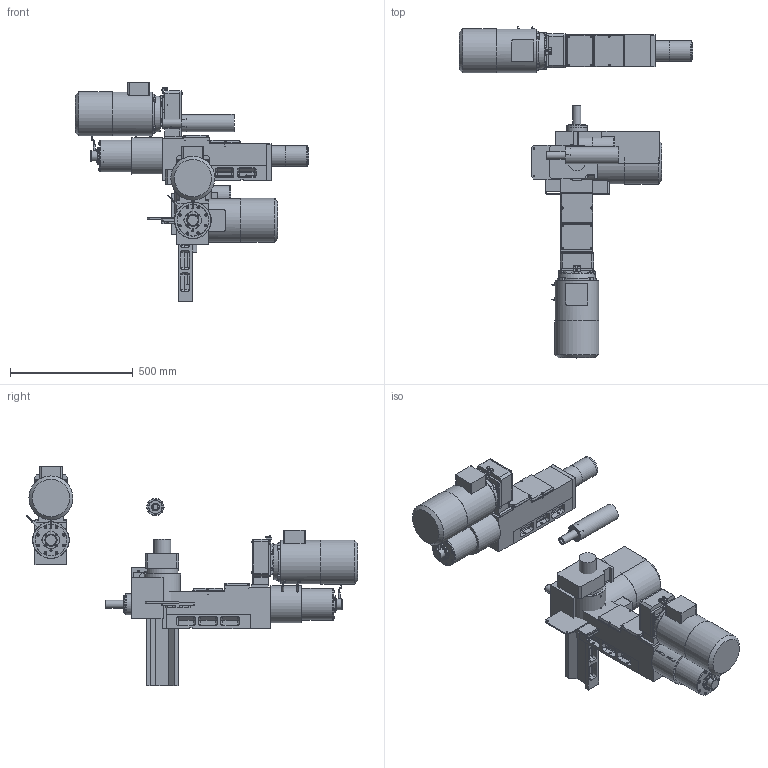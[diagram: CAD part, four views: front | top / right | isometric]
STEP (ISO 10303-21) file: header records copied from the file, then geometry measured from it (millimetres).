
FILE_DESCRIPTION( ( 'STEP AP203' ), '1' );
FILE_NAME( 'C:/Documents and Settings/Saverio/Desktop/disegni ironcad/unità serie 2/MC216A (ex MC220A)/MC 216 A_A05_P.stp', '2014-03-25T11:09:35', ( ' ' ), ( ' ' ), 'XStep 1.0', ' ', ' ' );
FILE_SCHEMA( ( 'CONFIG_CONTROL_DESIGN' ) );
Length unit declared in the file: metre
Products named in the file (54): Assem1; Assem2; Assem3; 1; 2; 3; 4; 5; 6; 7; 8; 9; 10; 11; 12; 13; 14; 15; 16; 17; 18; 19; 20; 21; 22; 23; 24; 25; 26; 27; 28; 29; 30; 31; 32; 33; 34; 35; 36; 37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
Bounding box: 950 x 1350.52 x 894.21 mm (x, y, z)
Volume: 61121489.8 mm3; surface area: 4668969.3 mm2
Topology: 153 solids, 156 shells, 3435 faces, 7743 edges, 4740 vertices
Faces by surface type: plane 1824, cylinder 894, cone 462, bspline 150, sphere 60, torus 45
Full cylindrical faces by diameter (mm): 3 x3, 5 x63, 5.5 x57, 6 x24, 6.5 x42, 6.637 x15, 6.647 x12, 6.75 x18, 7 x3, 8 x9, 8.385 x3, 8.5 x48, 8.75 x18, 8.758 x3, 18 x3, 20 x3, 24 x3, 31.2 x3, 32 x6, 44 x3, 44.2 x3, 50 x6, 50.5 x3, 52 x3, 53 x3, 54 x6, 70 x9, 74 x3, 76 x3, 80 x6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
Entity records: 35604 total; most frequent: CARTESIAN_POINT 9356, DIRECTION 4975, ORIENTED_EDGE 4344, EDGE_CURVE 2172, AXIS2_PLACEMENT_3D 1873, EDGE_LOOP 1627, VERTEX_POINT 1513, FACE_OUTER_BOUND 1308
